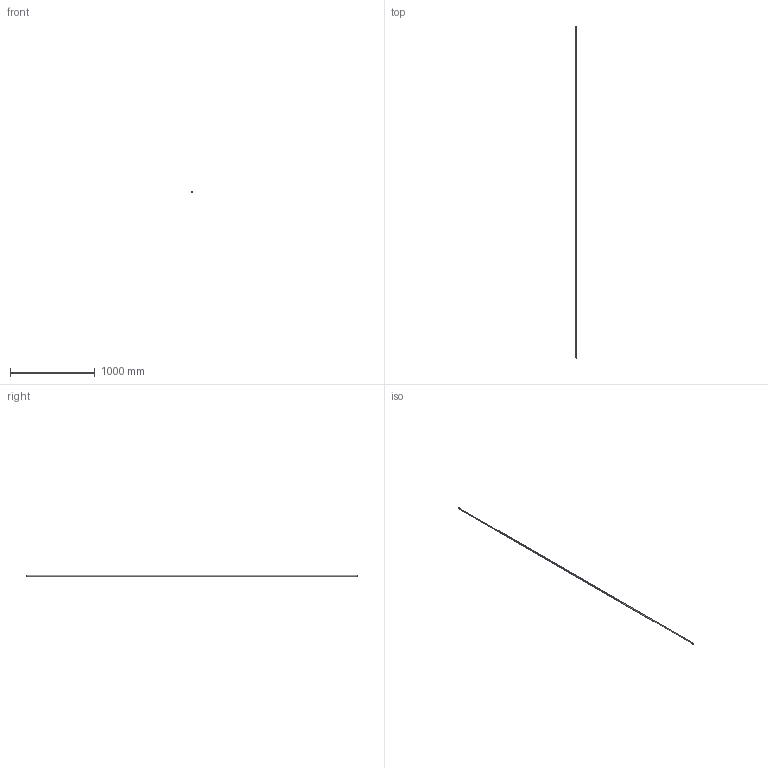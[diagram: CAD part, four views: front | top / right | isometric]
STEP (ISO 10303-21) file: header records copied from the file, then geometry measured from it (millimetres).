
FILE_DESCRIPTION (( 'STEP AP214' ), '1' );
FILE_NAME ('Instrument Guide Thimble.STEP', '2021-02-18T13:47:50', ( '' ), ( '' ), 'SwSTEP 2.0', 'SolidWorks 2020', '' );
FILE_SCHEMA (( 'AUTOMOTIVE_DESIGN' ));
Length unit declared in the file: inch
Products named in the file (1): Instrument Guide Thimble
Bounding box: 12.68 x 3911.6 x 12.78 mm (x, y, z)
Volume: 179559.6 mm3; surface area: 282883.4 mm2
Topology: 1 solids, 1 shells, 10 faces, 36 edges, 24 vertices
Faces by surface type: cylinder 8, plane 2
Entity records: 580 total; most frequent: CARTESIAN_POINT 243, ORIENTED_EDGE 72, DIRECTION 50, EDGE_CURVE 36, VERTEX_POINT 24, AXIS2_PLACEMENT_3D 19, B_SPLINE_CURVE_WITH_KNOTS 16, VECTOR 12
